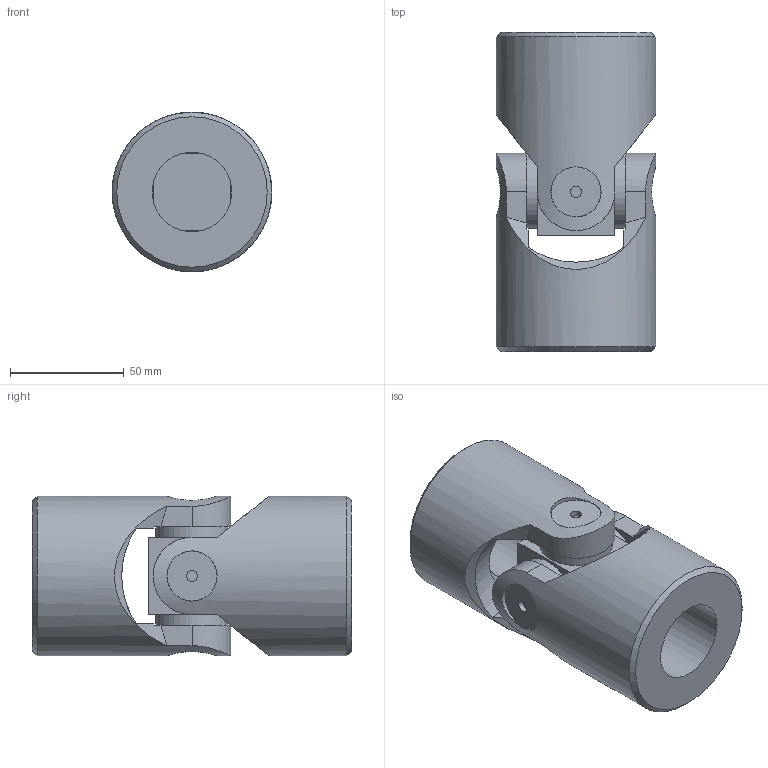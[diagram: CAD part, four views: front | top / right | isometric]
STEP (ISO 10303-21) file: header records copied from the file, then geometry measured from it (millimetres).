
FILE_DESCRIPTION(/* description */ (''),/* implementation_level */ '2;1');
FILE_NAME(/* name */ '\\SRV2016\Societa\Stefano\Disegni 3D\Dis. Clienti\0000Catalogo 3D\01Singoli G-GB\7G-00_SG0S3500.stp',/* time_stamp */ '2021-11-10T11:23:16+01:00',/* author */ ('acquisti'),/* organization */ (''),/* preprocessor_version */ 'ST-DEVELOPER v15.6',/* originating_system */ 'Autodesk Inventor 2015',/* authorisation */ '');
FILE_SCHEMA (('AUTOMOTIVE_DESIGN { 1 0 10303 214 3 1 1 }'));
Length unit declared in the file: millimetre
Products named in the file (3): 7G SFE; 7G MOS; Assieme1
Assembly tree (3 placements, depth 2):
  Assieme1
    7G SFE
    7G MOS  x2
Bounding box: 70 x 140 x 70 mm (x, y, z)
Volume: 359656.3 mm3; surface area: 62555.3 mm2
Topology: 3 solids, 3 shells, 72 faces, 170 edges, 114 vertices
Faces by surface type: plane 36, cylinder 22, cone 12, torus 2
Full cylindrical faces by diameter (mm): 5 x4, 22 x4, 32 x4, 35 x2, 40 x2, 70 x2
Entity records: 1427 total; most frequent: CARTESIAN_POINT 476, DIRECTION 184, ORIENTED_EDGE 164, EDGE_CURVE 82, AXIS2_PLACEMENT_3D 80, EDGE_LOOP 66, VERTEX_POINT 64, FACE_OUTER_BOUND 43
